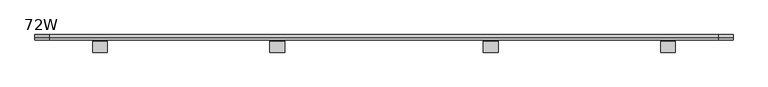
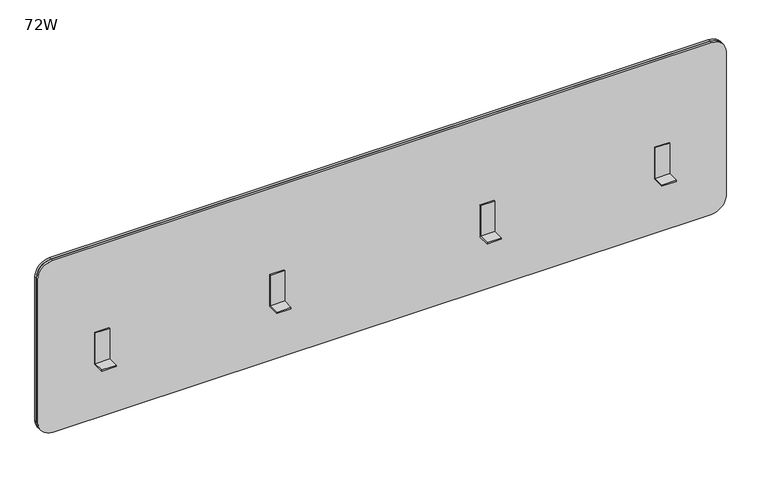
"""IFC4 building model written with IfcOpenShell, lengths in millimetres: furniture geometry, Steelcase Turnstone - Bivi - Screen - Straight : 72W."""

from ifc_helpers import new_model, si_unit, point, frame, frame_2d, origin, place, context, project, spatial, polyline, circle_curve, trimmed, segment, composite_curve, outline, extrude, source, transform, mapped, element, save


def furniture_72w_58d5d5e4(model_context):
    return source(origin(), model_context, "Body", "SweptSolid", [
        extrude(outline(polyline([(-100.6456009, 700.9734272), (-100.6456009, 787.0495535), (-97.6872108, 787.0495535), (-97.6872108, 697.3921394), (-130.205922, 697.3921394), (-130.205922, 700.9734272), (-100.6456009, 700.9734272)])), frame((615.7038388, 0.0, 0.0), z_axis=(1.0, 0.0, 0.0), x_axis=(0.0, 1.0, 0.0)), (0.0, 0.0, 1.0), 38.2069702),
        extrude(outline(polyline([(-100.6456009, 700.9734272), (-100.6456009, 787.0495535), (-97.6872108, 787.0495535), (-97.6872108, 697.3921394), (-130.205922, 697.3921394), (-130.205922, 700.9734272), (-100.6456009, 700.9734272)])), frame((1174.889191, 0.0, 0.0), z_axis=(1.0, 0.0, 0.0), x_axis=(0.0, 1.0, 0.0)), (0.0, 0.0, 1.0), 38.2069702),
        extrude(outline(polyline([(-100.6456009, 700.9734272), (-100.6456009, 787.0495535), (-97.6872108, 787.0495535), (-97.6872108, 697.3921394), (-130.205922, 697.3921394), (-130.205922, 700.9734272), (-100.6456009, 700.9734272)])), frame((1639.2617872, 0.0, 0.0), z_axis=(1.0, 0.0, 0.0), x_axis=(0.0, 1.0, 0.0)), (0.0, 0.0, 1.0), 38.2069702),
        extrude(outline(polyline([(-100.6456009, 700.9734272), (-100.6456009, 787.0495535), (-97.6872108, 787.0495535), (-97.6872108, 697.3921394), (-130.205922, 697.3921394), (-130.205922, 700.9734272), (-100.6456009, 700.9734272)])), frame((151.3312426, 0.0, 0.0), z_axis=(1.0, 0.0, 0.0), x_axis=(0.0, 1.0, 0.0)), (0.0, 0.0, 1.0), 38.2069702),
        extrude(outline(composite_curve([segment(polyline([(1028.3412889, 1789.43), (1028.3412889, 39.4397467)]), True, "CONTINUOUS"), segment(trimmed(circle_curve(frame_2d((988.9015421, 39.4397467)), 39.4397467), [point((1028.3412889, 39.4397467))], [point((988.9015421, 0.0))], False, "CARTESIAN"), True, "CONTINUOUS"), segment(polyline([(988.9015421, 0.0), (585.1278182, 0.0)]), True, "CONTINUOUS"), segment(trimmed(circle_curve(frame_2d((585.1278182, 39.37)), 39.37), [point((585.1278182, 0.0))], [point((545.7578182, 39.37))], False, "CARTESIAN"), True, "CONTINUOUS"), segment(polyline([(545.7578182, 39.37), (545.7578182, 1789.43)]), True, "CONTINUOUS"), segment(trimmed(circle_curve(frame_2d((585.1278182, 1789.43)), 39.37), [point((545.7578182, 1789.43))], [point((585.1278182, 1828.8))], False, "CARTESIAN"), True, "CONTINUOUS"), segment(polyline([(585.1278182, 1828.8), (988.9712889, 1828.8)]), True, "CONTINUOUS"), segment(trimmed(circle_curve(frame_2d((988.9712889, 1789.43)), 39.37), [point((988.9712889, 1828.8))], [point((1028.3412889, 1789.43))], False, "CARTESIAN"), True, "CONTINUOUS")], self_intersect=False)), frame((0.0, -90.878476, 0.0), z_axis=(0.0, 1.0, 0.0), x_axis=(0.0, 0.0, 1.0)), (0.0, 0.0, 1.0), 6.8087348),
        extrude(outline(composite_curve([segment(polyline([(1028.3412889, 1789.43), (1028.3412889, 39.4397467)]), True, "CONTINUOUS"), segment(trimmed(circle_curve(frame_2d((988.9015421, 39.4397467)), 39.4397467), [point((1028.3412889, 39.4397467))], [point((988.9015421, 0.0))], False, "CARTESIAN"), True, "CONTINUOUS"), segment(polyline([(988.9015421, 0.0), (585.1278182, 0.0)]), True, "CONTINUOUS"), segment(trimmed(circle_curve(frame_2d((585.1278182, 39.37)), 39.37), [point((585.1278182, 0.0))], [point((545.7578182, 39.37))], False, "CARTESIAN"), True, "CONTINUOUS"), segment(polyline([(545.7578182, 39.37), (545.7578182, 1789.43)]), True, "CONTINUOUS"), segment(trimmed(circle_curve(frame_2d((585.1278182, 1789.43)), 39.37), [point((545.7578182, 1789.43))], [point((585.1278182, 1828.8))], False, "CARTESIAN"), True, "CONTINUOUS"), segment(polyline([(585.1278182, 1828.8), (988.9712889, 1828.8)]), True, "CONTINUOUS"), segment(trimmed(circle_curve(frame_2d((988.9712889, 1789.43)), 39.37), [point((988.9712889, 1828.8))], [point((1028.3412889, 1789.43))], False, "CARTESIAN"), True, "CONTINUOUS")], self_intersect=False)), frame((0.0, -97.6872108, 0.0), z_axis=(0.0, 1.0, 0.0), x_axis=(0.0, 0.0, 1.0)), (0.0, 0.0, 1.0), 6.8087348),
    ])


if __name__ == "__main__":
    model = new_model("IFC4")
    model_context = context("Model", 3, world=origin())
    ifc_project = project(units=[si_unit("LENGTHUNIT", "METRE", prefix="MILLI")], contexts=[model_context])
    site = spatial("IfcSite", under=ifc_project)
    building = spatial("IfcBuilding", under=site)
    placement = place(None, origin())
    furniture_72w_shape = furniture_72w_58d5d5e4(model_context)
    element("IfcFurniture", 1, ObjectType="Steelcase Turnstone - Bivi - Screen - Straight : 72W", at=placement, inside=building, context=model_context, shape_type="MappedRepresentation", body=[
        mapped(furniture_72w_shape, transform((0.0, 0.0, 0.0), x_axis=(1.0, 0.0, 0.0), y_axis=(0.0, 1.0, 0.0), z_axis=(0.0, 0.0, 1.0))),
    ])
    save(model, "model.ifc")
